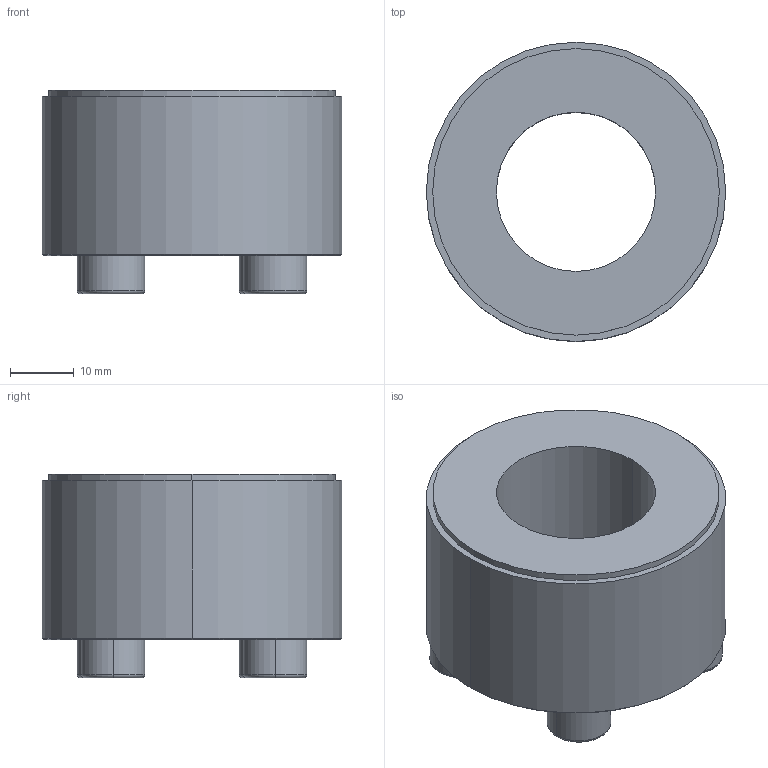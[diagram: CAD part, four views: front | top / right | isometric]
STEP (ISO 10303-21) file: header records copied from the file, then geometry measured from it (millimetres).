
FILE_DESCRIPTION (( 'STEP AP203' ), '1' );
FILE_NAME ('PL-B 25-47.STEP', '2021-10-22T07:46:44', ( '' ), ( '' ), 'SwSTEP 2.0', 'SolidWorks 2018', '' );
FILE_SCHEMA (( 'CONFIG_CONTROL_DESIGN' ));
Length unit declared in the file: millimetre
Products named in the file (1): PL-B 25-47
Bounding box: 47 x 47 x 32 mm (x, y, z)
Volume: 33815.4 mm3; surface area: 9270.8 mm2
Topology: 1 solids, 1 shells, 61 faces, 138 edges, 88 vertices
Faces by surface type: plane 35, cylinder 14, torus 8, cone 4
Entity records: 1785 total; most frequent: DIRECTION 310, CARTESIAN_POINT 288, ORIENTED_EDGE 276, EDGE_CURVE 138, AXIS2_PLACEMENT_3D 110, VECTOR 90, LINE 90, VERTEX_POINT 88
